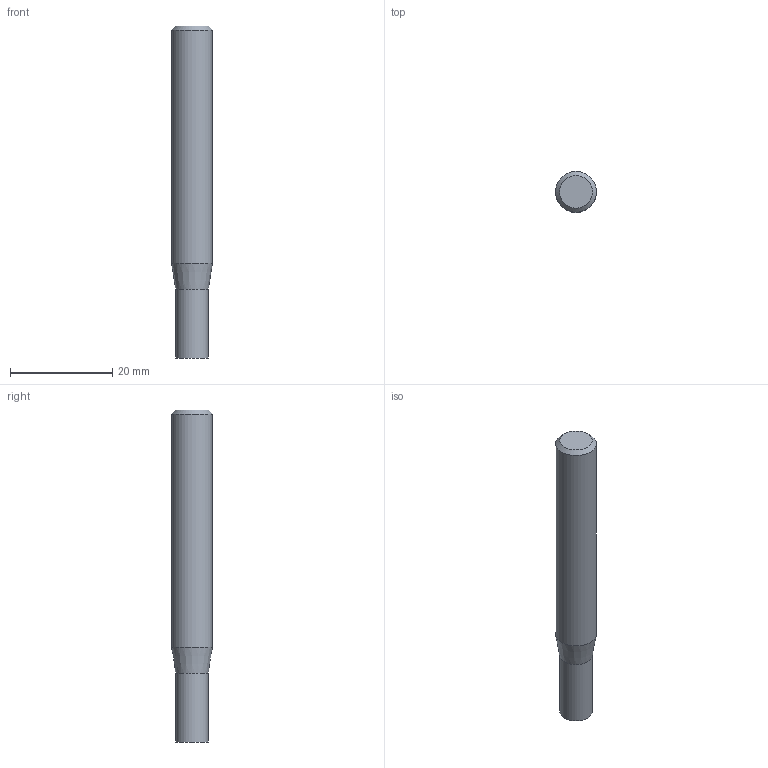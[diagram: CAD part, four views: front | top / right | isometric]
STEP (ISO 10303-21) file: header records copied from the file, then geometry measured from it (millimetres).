
FILE_DESCRIPTION((''),'2;1');
FILE_NAME('C:\Users\nsx150\AppData\Local\Temp\Mastercam 2021\98T1Q6BTT1\TEMP.step','2021-10-21T14:49:08',(''),(''),'STEP Write','Mastercam 2021 ... CNC Software, Inc.','');
FILE_SCHEMA(('AUTOMOTIVE_DESIGN'));
Length unit declared in the file: millimetre
Products named in the file (1): None
Bounding box: 8 x 8 x 65 mm (x, y, z)
Volume: 2968.1 mm3; surface area: 1688.7 mm2
Topology: 2 solids, 2 shells, 8 faces, 10 edges, 6 vertices
Faces by surface type: plane 4, cylinder 2, cone 2
Full cylindrical faces by diameter (mm): 6.4 x1, 8 x1
Entity records: 190 total; most frequent: DIRECTION 32, CARTESIAN_POINT 22, AXIS2_PLACEMENT_3D 16, ORIENTED_EDGE 12, EDGE_LOOP 12, STYLED_ITEM 11, ADVANCED_FACE 8, VERTEX_POINT 6
